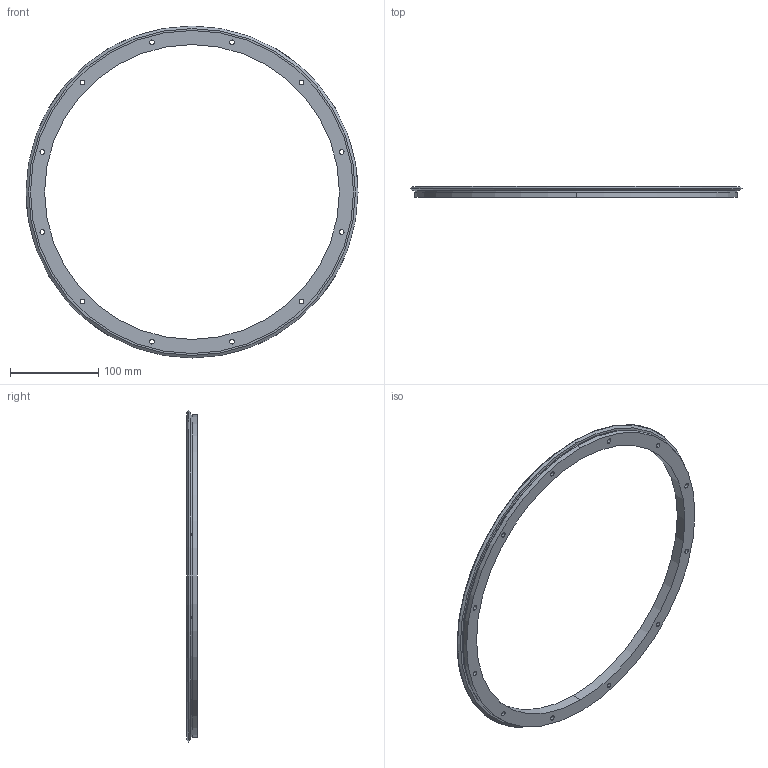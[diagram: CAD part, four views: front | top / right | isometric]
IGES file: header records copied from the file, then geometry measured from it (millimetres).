
Start section: 3D InterOp IGES (v. 2020 1.0.1), Spatial Corp. Copyright (c) 1999-2017.
Global section: file name: res_376_r360.igs; native system: Spatial Corp.; preprocessor: 3D InterOp ACIS/IGES; author: TraceParts; organization: TraceParts S.A.; date: 20220624.101403; units: millimetre
Bounding box: 376.22 x 12.25 x 376.22 mm (x, y, z)
Surface area: 74980 mm2 (no closed solid volume)
Topology: 0 solids, 0 shells, 78 faces, 360 edges, 360 vertices
Faces by surface type: revolution 62, extrusion 16
